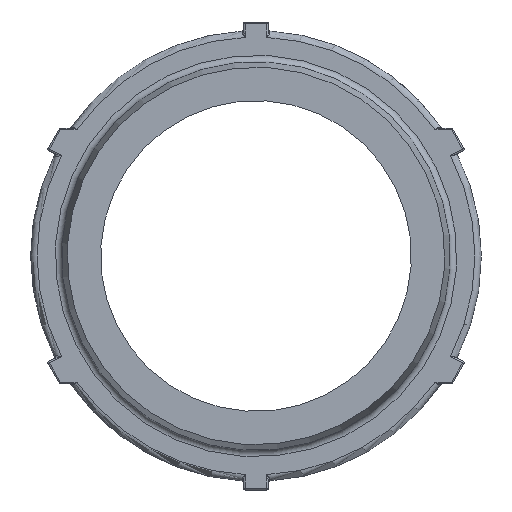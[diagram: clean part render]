
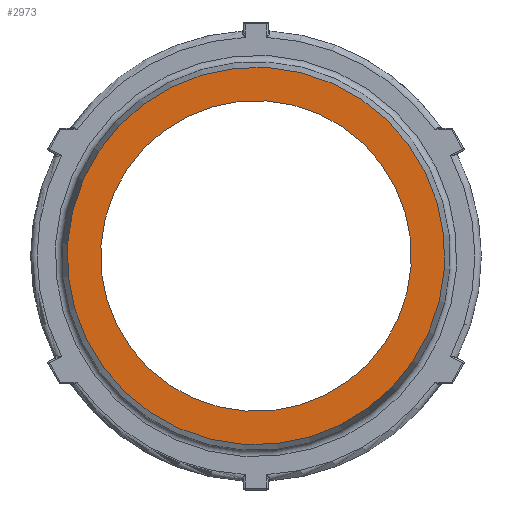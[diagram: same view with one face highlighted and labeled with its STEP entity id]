
A CAD part, left-side view. The second image highlights one B-rep face of the part: STEP entity #2973.
In plain terms, the highlighted planar face has unit normal (-1, 0, 0).
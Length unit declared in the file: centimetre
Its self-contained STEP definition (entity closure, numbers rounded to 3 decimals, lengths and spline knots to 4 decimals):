
#147=PLANE('',#1165);
#860=DIRECTION('',(-1.,0.,0.));
#861=DIRECTION('',(0.,3.652,0.239));
#951=DIRECTION('',(-1.,0.,0.));
#952=DIRECTION('',(0.,4.438,0.29));
#953=DIRECTION('',(-1.,0.,0.));
#1125=AXIS2_PLACEMENT_3D('',#6021,#860,#861);
#1164=AXIS2_PLACEMENT_3D('',#40859,#951,#952);
#1165=AXIS2_PLACEMENT_3D('',#40861,#953,$);
#1259=CIRCLE('',#1125,3.6601);
#1272=CIRCLE('',#1164,4.4478);
#1422=VERTEX_POINT('',#6022);
#1469=VERTEX_POINT('',#40860);
#1810=EDGE_CURVE('',#1422,#1422,#1259,.T.);
#1881=EDGE_CURVE('',#1469,#1469,#1272,.T.);
#2521=ORIENTED_EDGE('',*,*,#1810,.F.);
#2522=ORIENTED_EDGE('',*,*,#1881,.T.);
#2679=EDGE_LOOP('',(#2521));
#2680=EDGE_LOOP('',(#2522));
#2833=FACE_BOUND('',#2679,.T.);
#2834=FACE_BOUND('',#2680,.T.);
#2973=ADVANCED_FACE('',(#2833,#2834),#147,.T.);
#6021=CARTESIAN_POINT('',(-5.0038,0.,0.));
#6022=CARTESIAN_POINT('',(-5.0038,3.6523,0.2387));
#40859=CARTESIAN_POINT('',(-5.0038,0.,0.));
#40860=CARTESIAN_POINT('',(-5.0038,4.4383,0.2901));
#40861=CARTESIAN_POINT('',(-5.0038,4.0453,0.2644));
